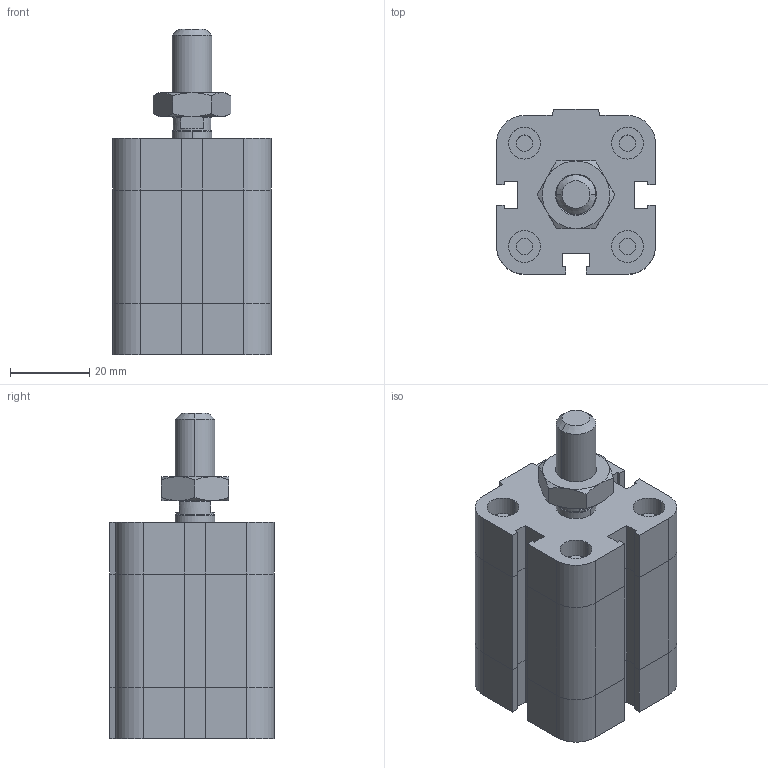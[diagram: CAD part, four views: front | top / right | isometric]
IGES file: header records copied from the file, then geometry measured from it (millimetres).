
Global section: file name: No Iges File Name specified; native system: Autodesk Inventor 2009; preprocessor: AutoDesk Inventor Iges Exporter R2009; author: rivolro1; date: 20081219.161633; units: millimetre
Bounding box: 40 x 41.5 x 82 mm (x, y, z)
Volume: 79913.7 mm3; surface area: 20147.3 mm2
Topology: 3 solids, 3 shells, 216 faces, 472 edges, 282 vertices
Faces by surface type: plane 121, bspline 37, cylinder 20, cone 20, revolution 18
